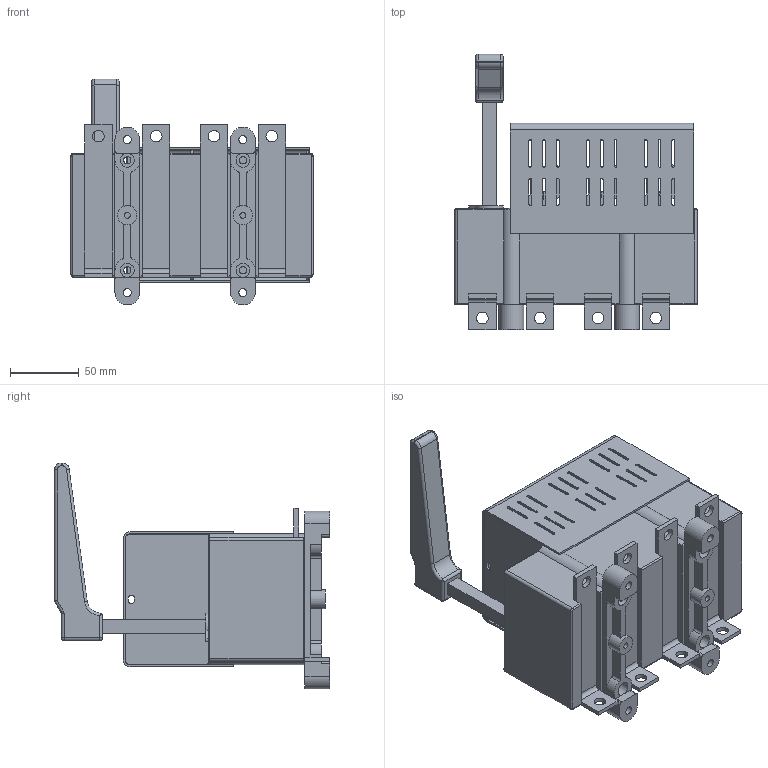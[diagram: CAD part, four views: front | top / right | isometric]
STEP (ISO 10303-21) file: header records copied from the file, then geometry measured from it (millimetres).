
FILE_DESCRIPTION(/* description */ (''),/* implementation_level */ '2;1');
FILE_NAME(/* name */ 'RAB 00 P3 NB-R.stp',/* time_stamp */ '2021-08-19T11:27:36+02:00',/* author */ (''),/* organization */ (''),/* preprocessor_version */ 'ST-DEVELOPER v18.1',/* originating_system */ 'SIEMENS PLM Software NX 1965',/* authorisation */ '');
FILE_SCHEMA (('AP242_MANAGED_MODEL_BASED_3D_ENGINEERING_MIM_LF { 1 0 10303 442 1 1 4 }'));
Length unit declared in the file: millimetre
Products named in the file (1): RAB 00 P3 NB-R_stp
Bounding box: 176 x 200 x 164.18 mm (x, y, z)
Volume: 1281861 mm3; surface area: 234680.7 mm2
Topology: 1 solids, 1 shells, 906 faces, 2553 edges, 1652 vertices
Faces by surface type: plane 550, cylinder 330, torus 15, sphere 6, bspline 5
Full cylindrical faces by diameter (mm): 2.7 x4, 4.3 x2, 5 x6, 5.3 x4, 5.8 x4, 8.5 x8, 10 x8, 14 x2
Entity records: 29164 total; most frequent: CARTESIAN_POINT 5242, ORIENTED_EDGE 4970, DIRECTION 4937, EDGE_CURVE 2485, LINE 1775, VECTOR 1775, VERTEX_POINT 1628, AXIS2_PLACEMENT_3D 1581
